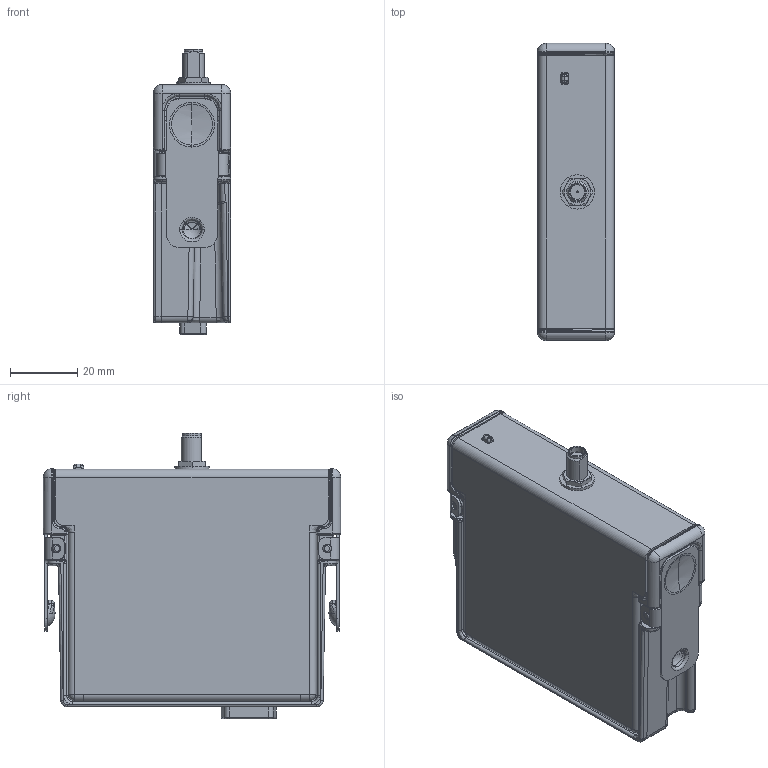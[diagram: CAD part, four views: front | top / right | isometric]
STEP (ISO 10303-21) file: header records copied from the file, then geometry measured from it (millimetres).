
FILE_DESCRIPTION((''),'2;1');
FILE_NAME('CU_CRIO-9467','2013-03-13T',('talbott'),(''),'PRO/ENGINEER BY PARAMETRIC TECHNOLOGY CORPORATION, 2011490','PRO/ENGINEER BY PARAMETRIC TECHNOLOGY CORPORATION, 2011490','');
FILE_SCHEMA(('CONFIG_CONTROL_DESIGN'));
Products named in the file (1): CU_CRIO-9467
Bounding box: 22.86 x 88.11 x 84.73 mm (x, y, z)
Surface area: 48469.3 mm2 (no closed solid volume)
Topology: 0 solids, 28 shells, 1387 faces, 3556 edges, 2152 vertices
Faces by surface type: cylinder 450, plane 442, bspline 322, torus 70, cone 58, sphere 39, extrusion 6
Entity records: 56335 total; most frequent: CARTESIAN_POINT 25623, ORIENTED_EDGE 6557, DIRECTION 5755, EDGE_CURVE 3484, VERTEX_POINT 2190, AXIS2_PLACEMENT_3D 2078, VECTOR 1599, LINE 1593
